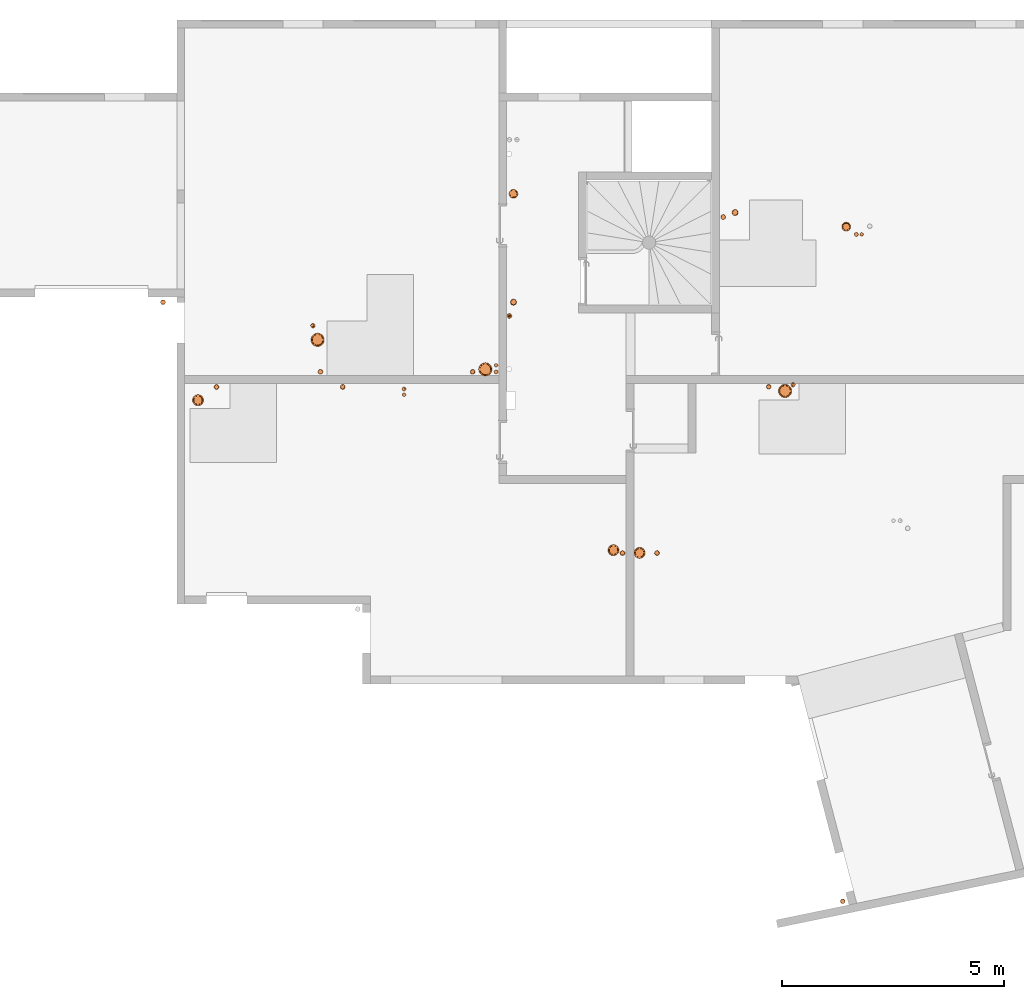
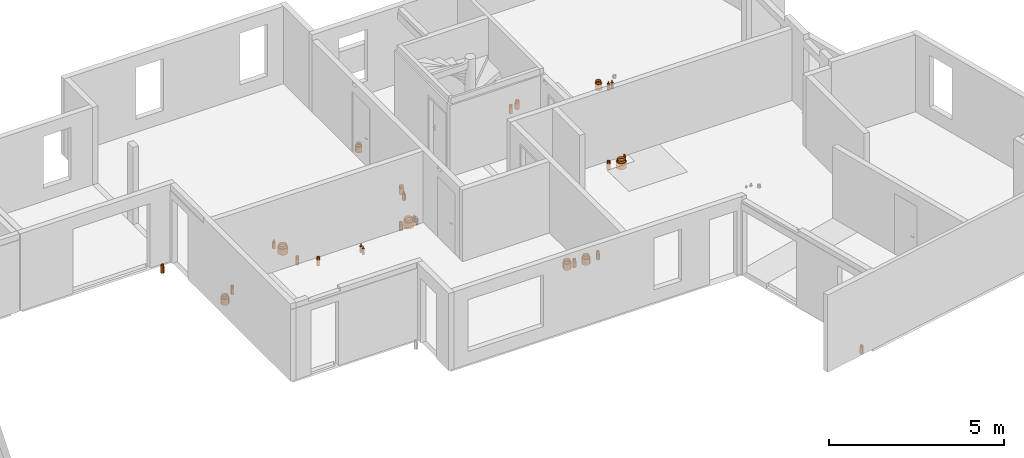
# One storey, part 28 of 30: 29 proxies.
"""IFC2X3 building model written with IfcOpenShell, lengths in centimetres."""

import ifcopenshell
import ifcopenshell.guid

model = None  # the IFC model being written
_history = None  # IfcOwnerHistory: only IFC2X3 demands one
_inside = {}  # id of a spatial element -> (the spatial element, [elements in it])
_under = {}  # id of a project, library or spatial element -> (it, [spatial elements below it])
_declared = {}  # id of a project -> (the project, [libraries it declares])
_typed = {}  # id of a type object -> (the type object, [elements of that type])
_made_of = {}  # id of a material, layer set ... -> (it, [elements and type objects made of it])


def new_model(schema):
    """Start an empty IFC model of exactly this schema.

    Asked for "IFC4X3", IfcOpenShell would pick the latest addendum, in which some entities
    have other attributes; the version numbers below select the first issue.
    IFC2X3 requires an IfcOwnerHistory on every rooted entity: one is made here for all.
    """
    global model, _history
    if schema == "IFC4X3":
        model = ifcopenshell.file(schema_version=(4, 3, 0, 0))
    else:
        model = ifcopenshell.file(schema=schema)
    _inside.clear()
    _under.clear()
    _declared.clear()
    _typed.clear()
    _made_of.clear()
    _history = None
    if model.schema == "IFC2X3":
        org = make("IfcOrganization", Name="unknown")
        user = make(
            "IfcPersonAndOrganization",
            ThePerson=make("IfcPerson", FamilyName="unknown"),
            TheOrganization=org,
        )
        app = make(
            "IfcApplication",
            ApplicationDeveloper=org,
            Version="unknown",
            ApplicationFullName="unknown",
            ApplicationIdentifier="unknown",
        )
        _history = make(
            "IfcOwnerHistory",
            OwningUser=user,
            OwningApplication=app,
            ChangeAction="ADDED",
            CreationDate=0,
        )
    return model


def make(cls, **values):
    """One entity of the class cls with the attributes given. An attribute that is None is left unset."""
    return model.create_entity(
        cls, **{name: value for name, value in values.items() if value is not None}
    )


def entity(cls, *values):
    """Any entity or typed value of the class cls, its attributes in the order of the schema. None: left unset."""
    e = model.create_entity(cls)
    for i, value in enumerate(values):
        if value is not None:
            e[i] = value
    return e


def rooted(cls, **values):
    """An entity with a GlobalId (a new one), such as an element, a storey or a relation."""
    return make(cls, GlobalId=ifcopenshell.guid.new(), OwnerHistory=_history, **values)


def si_unit(unit_type, name, prefix=None):
    """IfcSIUnit, for example si_unit("LENGTHUNIT", "METRE", prefix="MILLI")."""
    return make("IfcSIUnit", UnitType=unit_type, Prefix=prefix, Name=name)


def converted_unit(unit_type, name, factor, base, dimensions=None, offset=None):
    """IfcConversionBasedUnit, such as the inch: factor (a typed value) times the base unit."""
    return make(
        "IfcConversionBasedUnit"
        if offset is None
        else "IfcConversionBasedUnitWithOffset",
        ConversionOffset=offset,
        Dimensions=None
        if dimensions is None
        else entity("IfcDimensionalExponents", *dimensions),
        UnitType=unit_type,
        Name=name,
        ConversionFactor=make(
            "IfcMeasureWithUnit", ValueComponent=factor, UnitComponent=base
        ),
    )


def derived_unit(unit_type, elements):
    """IfcDerivedUnit: a product of units, each with its exponent."""
    return make(
        "IfcDerivedUnit",
        Elements=[
            make("IfcDerivedUnitElement", Unit=unit, Exponent=power)
            for unit, power in elements
        ],
        UnitType=unit_type,
    )


def assignment(units):
    """IfcUnitAssignment: the units of a project."""
    return None if units is None else make("IfcUnitAssignment", Units=units)


def point(xyz):
    """IfcCartesianPoint."""
    return None if xyz is None else make("IfcCartesianPoint", Coordinates=xyz)


def direction(xyz):
    """IfcDirection."""
    return None if xyz is None else make("IfcDirection", DirectionRatios=xyz)


def frame(location, z_axis=None, x_axis=None):
    """IfcAxis2Placement3D, a coordinate frame: its origin and axes. An axis left out is left unset."""
    return make(
        "IfcAxis2Placement3D",
        Location=point(location),
        Axis=direction(z_axis),
        RefDirection=direction(x_axis),
    )


def frame_2d(location, x_axis=None):
    """IfcAxis2Placement2D, a coordinate frame in the plane: its origin and x axis."""
    return make(
        "IfcAxis2Placement2D", Location=point(location), RefDirection=direction(x_axis)
    )


def origin():
    """The frame at (0, 0, 0) with its axes left unset."""
    return frame((0.0, 0.0, 0.0))


def place(relative_to, where):
    """IfcLocalPlacement: puts the frame where relative to a parent placement (None: the world)."""
    return make(
        "IfcLocalPlacement", PlacementRelTo=relative_to, RelativePlacement=where
    )


def context(
    kind, dimensions, precision=None, world=None, true_north=None, identifier=None
):
    """IfcGeometricRepresentationContext, for example the 3D "Model" context."""
    return make(
        "IfcGeometricRepresentationContext",
        ContextIdentifier=identifier,
        ContextType=kind,
        CoordinateSpaceDimension=dimensions,
        Precision=precision,
        WorldCoordinateSystem=world,
        TrueNorth=true_north,
    )


def subcontext(parent, identifier, kind, view, scale=None):
    """IfcGeometricRepresentationSubContext, for example "Body" below "Model"."""
    return make(
        "IfcGeometricRepresentationSubContext",
        ContextIdentifier=identifier,
        ContextType=kind,
        ParentContext=parent,
        TargetScale=scale,
        TargetView=view,
    )


def project(units=None, contexts=None):
    """IfcProject with its units and contexts."""
    return rooted(
        "IfcProject",
        Name="project",
        RepresentationContexts=contexts,
        UnitsInContext=assignment(units),
    )


def spatial(cls, under=None, at=None, **own):
    """A site, building, storey or space (cls), placed at a placement, below another one or the project."""
    s = rooted(cls, ObjectPlacement=at, **own)
    if under is not None:
        _under.setdefault(under.id(), (under, []))[1].append(s)
    return s


def profile(cls, at=None, kind="AREA", **sizes):
    """A parametric profile (cls). Its sizes go by their IFC names, for example OverallWidth=200.0."""
    return make(cls, ProfileType=kind, Position=at, **sizes)


def circle(**sizes):
    """IfcCircleProfileDef."""
    return profile("IfcCircleProfileDef", **sizes)


def hollow_circle(**sizes):
    """IfcCircleHollowProfileDef."""
    return profile("IfcCircleHollowProfileDef", **sizes)


def extrude(swept, where, along, depth):
    """IfcExtrudedAreaSolid: the profile swept, set in the frame where, extruded along a direction by depth."""
    return make(
        "IfcExtrudedAreaSolid",
        SweptArea=swept,
        Position=where,
        ExtrudedDirection=direction(along),
        Depth=depth,
    )


def shape(context_of_items, identifier, shape_type, items):
    """IfcShapeRepresentation: the items that make up one representation, for example the "Body"."""
    return make(
        "IfcShapeRepresentation",
        ContextOfItems=context_of_items,
        RepresentationIdentifier=identifier,
        RepresentationType=shape_type,
        Items=items,
    )


def source(mapping_origin, context_of_items, identifier, shape_type, items):
    """IfcRepresentationMap: a shape defined once, which mapped items show again and again."""
    return make(
        "IfcRepresentationMap",
        MappingOrigin=mapping_origin,
        MappedRepresentation=shape(context_of_items, identifier, shape_type, items),
    )


def transform(
    local_origin,
    x_axis=None,
    y_axis=None,
    z_axis=None,
    scale=None,
    scale2=None,
    scale3=None,
    uniform=True,
):
    """IfcCartesianTransformationOperator3D, or its non-uniform kind. x_axis, y_axis, z_axis: its Axis1, 2, 3."""
    if uniform:
        return make(
            "IfcCartesianTransformationOperator3D",
            Axis1=direction(x_axis),
            Axis2=direction(y_axis),
            LocalOrigin=point(local_origin),
            Scale=scale,
            Axis3=direction(z_axis),
        )
    return make(
        "IfcCartesianTransformationOperator3DnonUniform",
        Axis1=direction(x_axis),
        Axis2=direction(y_axis),
        LocalOrigin=point(local_origin),
        Scale=scale,
        Axis3=direction(z_axis),
        Scale2=scale2,
        Scale3=scale3,
    )


def mapped(mapping_source, mapping_target):
    """IfcMappedItem: shows the shape of a source again, moved by a transform."""
    return make(
        "IfcMappedItem", MappingSource=mapping_source, MappingTarget=mapping_target
    )


def material(Name=None, Category=None):
    """IfcMaterial."""
    return make("IfcMaterial", Name=Name, Category=Category)


def made_of(thing, what):
    """Note that an element or type object is made of a material, layer set ...; save() writes the relation."""
    if what is not None:
        _made_of.setdefault(what.id(), (what, []))[1].append(thing)
    return thing


def type_object(cls, material=None, **own):
    """A type object (cls), such as IfcWallType, which elements share."""
    return made_of(rooted(cls, **own), material)


def type_shapes(of_type, sources):
    """Give a type object the sources (RepresentationMaps) that its elements show as mapped items."""
    of_type.RepresentationMaps = sources


def element(
    cls,
    number,
    at=None,
    inside=None,
    cuts=None,
    type_object=None,
    material=None,
    context=None,
    identifier="Body",
    shape_type=None,
    held_by="IfcProductDefinitionShape",
    body=None,
    shapes=None,
    **own,
):
    """One element of the class cls, such as IfcWall. Its Tag is "e" and its number.

    at: its placement. inside: the storey or other place that contains it. cuts: it is an
    opening in that element (IfcRelVoidsElement). A single representation is given by context,
    identifier, shape_type and body (its items); several are given by shapes. held_by: the class
    of the entity that holds the representations. save() writes the other relations.
    """
    e = rooted(cls, Tag="e%d" % number, ObjectPlacement=at, **own)
    if body is not None:
        shapes = [shape(context, identifier, shape_type, body)]
    if shapes is not None:
        e.Representation = make(held_by, Representations=shapes)
    if inside is not None:
        _inside.setdefault(inside.id(), (inside, []))[1].append(e)
    if cuts is not None:
        rooted(
            "IfcRelVoidsElement", RelatingBuildingElement=cuts, RelatedOpeningElement=e
        )
    if type_object is not None:
        _typed.setdefault(type_object.id(), (type_object, []))[1].append(e)
    return made_of(e, material)


def aggregate(whole, parts):
    """IfcRelAggregates: a whole, such as a stair, and the parts it consists of."""
    return rooted("IfcRelAggregates", RelatingObject=whole, RelatedObjects=parts)


def save(model, path):
    """Write the relations noted so far, then the file.

    IfcRelAggregates (storeys below a building ...), IfcRelContainedInSpatialStructure (elements
    in a storey), IfcRelDefinesByType, IfcRelAssociatesMaterial and IfcRelDeclares: one each for
    every whole, place, type object, material and project.
    """
    for whole, parts in _under.values():
        aggregate(whole, parts)
    for where, things in _inside.values():
        rooted(
            "IfcRelContainedInSpatialStructure",
            RelatedElements=things,
            RelatingStructure=where,
        )
    for kind, things in _typed.values():
        rooted("IfcRelDefinesByType", RelatedObjects=things, RelatingType=kind)
    for what, things in _made_of.values():
        rooted("IfcRelAssociatesMaterial", RelatedObjects=things, RelatingMaterial=what)
    for by, libraries in _declared.values():
        rooted("IfcRelDeclares", RelatingContext=by, RelatedDefinitions=libraries)
    model.write(path)


model = new_model("IFC2X3")

# Units and contexts
model_context = context("Model", 3, precision=0.001, world=origin(), true_north=direction((6.12303176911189e-17, 1.0)))
body_context = subcontext(model_context, "Body", "Model", "MODEL_VIEW")
ifc_project = project(units=[si_unit("LENGTHUNIT", "METRE", prefix="CENTI"), si_unit("AREAUNIT", "SQUARE_METRE"), si_unit("VOLUMEUNIT", "CUBIC_METRE"), converted_unit("PLANEANGLEUNIT", "DEGREE", entity("IfcRatioMeasure", 0.0174532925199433), si_unit("PLANEANGLEUNIT", "RADIAN"), dimensions=[0, 0, 0, 0, 0, 0, 0]), si_unit("MASSUNIT", "GRAM", prefix="KILO"), derived_unit("MASSDENSITYUNIT", [(si_unit("MASSUNIT", "GRAM", prefix="KILO"), 1), (si_unit("LENGTHUNIT", "METRE"), -3)]), si_unit("TIMEUNIT", "SECOND"), si_unit("FREQUENCYUNIT", "HERTZ"), si_unit("THERMODYNAMICTEMPERATUREUNIT", "DEGREE_CELSIUS"), derived_unit("THERMALTRANSMITTANCEUNIT", [(si_unit("MASSUNIT", "GRAM", prefix="KILO"), 1), (si_unit("THERMODYNAMICTEMPERATUREUNIT", "KELVIN"), -1), (si_unit("TIMEUNIT", "SECOND"), -3)]), derived_unit("VOLUMETRICFLOWRATEUNIT", [(si_unit("LENGTHUNIT", "METRE"), 3), (si_unit("TIMEUNIT", "SECOND"), -1)]), si_unit("ELECTRICCURRENTUNIT", "AMPERE"), si_unit("ELECTRICVOLTAGEUNIT", "VOLT"), si_unit("POWERUNIT", "WATT"), si_unit("FORCEUNIT", "NEWTON"), si_unit("ILLUMINANCEUNIT", "LUX"), si_unit("LUMINOUSFLUXUNIT", "LUMEN"), si_unit("LUMINOUSINTENSITYUNIT", "CANDELA"), derived_unit("USERDEFINED", [(si_unit("MASSUNIT", "GRAM", prefix="KILO"), -1), (si_unit("LENGTHUNIT", "METRE"), -2), (si_unit("TIMEUNIT", "SECOND"), 3), (si_unit("LUMINOUSFLUXUNIT", "LUMEN"), 1)]), derived_unit("LINEARVELOCITYUNIT", [(si_unit("LENGTHUNIT", "METRE"), 1), (si_unit("TIMEUNIT", "SECOND"), -1)]), si_unit("PRESSUREUNIT", "PASCAL"), derived_unit("USERDEFINED", [(si_unit("LENGTHUNIT", "METRE"), -2), (si_unit("MASSUNIT", "GRAM", prefix="KILO"), 1), (si_unit("TIMEUNIT", "SECOND"), -2)])], contexts=[model_context])

# Site, building, storey
site_placement = place(None, origin())
site = spatial("IfcSite", under=ifc_project, at=site_placement, Name="Default", CompositionType="ELEMENT")
building_placement = place(site_placement, origin())
building = spatial("IfcBuilding", under=site, at=building_placement, Name="CAGE 03", CompositionType="ELEMENT")
storey_placement = place(building_placement, frame((0.0, 0.0, 610.0)))
storey = spatial("IfcBuildingStorey", under=building, at=storey_placement, Name="R+2", CompositionType="ELEMENT", Elevation=610.0)

# Proxies
ifc_material_1 = material(Name="Conduit VMC")
building_element_proxy_type_1 = type_object("IfcBuildingElementProxyType", Name="CFO235 P210", PredefinedType="NOTDEFINED", material=ifc_material_1)
shared_shape_1 = source(origin(), body_context, "Body", "SweptSolid", [
    extrude(circle(Radius=12.5, at=frame_2d((0.0, -2.01943071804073e-14), x_axis=(1.0, 0.0))), frame((0.0, 0.0, -21.0)), (0.0, 0.0, 1.0), 21.0),
    extrude(hollow_circle(Radius=10.0, WallThickness=0.5, at=frame_2d((0.0, -1.61554457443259e-14), x_axis=(1.0, 0.0))), frame((0.0, 0.0, -21.0)), (0.0, 0.0, 1.0), 28.5),
])
type_shapes(building_element_proxy_type_1, [shared_shape_1])
for number, where, name in (
    (1, (10327.9230662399, 4092.36946065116, -4.46999646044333e-07), "Galette - Résa - PVC1:CFO235 P210"),
    (2, (10268.9349519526, 4098.26793957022, -4.46999646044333e-07), "Galette - Résa - PVC1:CFO235 P210"),
    (3, (9332.31391271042, 4436.40500268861, -4.46999646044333e-07), "Galette - Résa - PVC1:CFO235 P210"),
):
    element("IfcBuildingElementProxy", number, at=place(storey_placement, frame(where)), inside=storey, type_object=building_element_proxy_type_1, material=ifc_material_1, Name=name, ObjectType="CFO235 P210", context=body_context, shape_type="MappedRepresentation", body=[
        mapped(shared_shape_1, transform((0.0, 0.0, 0.0), scale=1.0)),
    ])
building_element_proxy_type_2 = type_object("IfcBuildingElementProxyType", Name="CFO140 P135", PredefinedType="NOTDEFINED", material=ifc_material_1)
shared_shape_2 = source(origin(), body_context, "Body", "SweptSolid", [
    extrude(circle(Radius=7.0, at=frame_2d((0.0, -1.13088120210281e-14), x_axis=(1.0, 0.0))), frame((0.0, 0.0, -21.0)), (0.0, 0.0, 1.0), 21.0),
    extrude(hollow_circle(Radius=6.25, WallThickness=0.25, at=frame_2d((0.0, -1.00971535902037e-14), x_axis=(1.0, 0.0))), frame((0.0, 0.0, -21.0)), (0.0, 0.0, 1.0), 28.5),
])
type_shapes(building_element_proxy_type_2, [shared_shape_2])
proxy_1_placement = place(storey_placement, frame((10543.320982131, 4859.55826939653, -4.46999646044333e-07)))
element("IfcBuildingElementProxy", 4, at=proxy_1_placement, inside=storey, type_object=building_element_proxy_type_2, material=ifc_material_1, Name="Galette - Résa - PVC1:CFO140 P135", ObjectType="CFO140 P135", context=body_context, shape_type="MappedRepresentation", body=[
    mapped(shared_shape_2, transform((0.0, 0.0, 0.0), scale=1.0)),
])
ifc_material_2 = material(Name="Conduit EU")
building_element_proxy_type_3 = type_object("IfcBuildingElementProxyType", Name="CFO125 P110", PredefinedType="NOTDEFINED", material=ifc_material_2)
shared_shape_3 = source(origin(), body_context, "Body", "SweptSolid", [
    extrude(circle(Radius=5.5, at=frame_2d((0.0, -8.88549515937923e-15), x_axis=(1.0, 0.0))), frame((0.0, 0.0, -21.0)), (0.0, 0.0, 1.0), 21.0),
    extrude(hollow_circle(Radius=5.0, WallThickness=0.25, at=frame_2d((0.0, -8.07772287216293e-15), x_axis=(1.0, 0.0))), frame((0.0, 0.0, -21.0)), (0.0, 0.0, 1.0), 28.5),
])
type_shapes(building_element_proxy_type_3, [shared_shape_3])
for number, where, name in (
    (5, (10289.3612124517, 4091.78429255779, -4.46999646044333e-07), "Galette - Résa - PVC1:CFO125 P110"),
    (6, (10516.3663623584, 4849.41389855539, -4.46999646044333e-07), "Galette - Résa - PVC1:CFO125 P110"),
    (7, (10367.3017612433, 4091.78416513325, -4.46999646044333e-07), "Galette - Résa - PVC1:CFO125 P110"),
    (8, (9951.51198540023, 4500.43298935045, -4.46999646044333e-07), "Galette - Résa - PVC1:CFO125 P110"),
    (9, (9658.56743117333, 4466.46418000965, -4.46999646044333e-07), "Galette - Résa - PVC1:CFO125 P110"),
    (10, (9374.03856475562, 4466.282688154, -4.46999646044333e-07), "Galette - Résa - PVC1:CFO125 P110"),
    (11, (9608.38538763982, 4500.43707667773, -4.46999646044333e-07), "Galette - Résa - PVC1:CFO125 P110"),
    (12, (10619.0361233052, 4466.65917245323, -4.46999646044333e-07), "Galette - Résa - PVC1:CFO125 P110"),
):
    element("IfcBuildingElementProxy", number, at=place(storey_placement, frame(where)), inside=storey, type_object=building_element_proxy_type_3, material=ifc_material_2, Name=name, ObjectType="CFO125 P110", context=body_context, shape_type="MappedRepresentation", body=[
        mapped(shared_shape_3, transform((0.0, 0.0, 0.0), scale=1.0)),
    ])
ifc_material_3 = material(Name="Conduit EP")
building_element_proxy_type_4 = type_object("IfcBuildingElementProxyType", Name="EP 101", PredefinedType="NOTDEFINED", material=ifc_material_3)
shared_shape_4 = source(origin(), body_context, "Body", "SweptSolid", [
    extrude(circle(Radius=5.5, at=frame_2d((0.0, -8.88549515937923e-15), x_axis=(1.0, 0.0))), frame((0.0, 0.0, -21.0)), (0.0, 0.0, 1.0), 21.0),
    extrude(hollow_circle(Radius=5.0, WallThickness=0.25, at=frame_2d((0.0, -8.07772287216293e-15), x_axis=(1.0, 0.0))), frame((0.0, 0.0, -21.0)), (0.0, 0.0, 1.0), 28.5),
])
type_shapes(building_element_proxy_type_4, [shared_shape_4])
for number, where, name in (
    (13, (10785.9497545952, 3306.72517994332, -4.46999646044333e-07), "Galette - Résa - PVC1:EP 101"),
    (14, (9253.3714875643, 4657.37221051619, -4.46999646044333e-07), "Galette - Résa - PVC1:EP 101"),
):
    element("IfcBuildingElementProxy", number, at=place(storey_placement, frame(where)), inside=storey, type_object=building_element_proxy_type_4, material=ifc_material_3, Name=name, ObjectType="EP 101", context=body_context, shape_type="MappedRepresentation", body=[
        mapped(shared_shape_4, transform((0.0, 0.0, 0.0), scale=1.0)),
    ])
building_element_proxy_type_5 = type_object("IfcBuildingElementProxyType", Name="EP 161", PredefinedType="NOTDEFINED", material=ifc_material_3)
shared_shape_5 = source(origin(), body_context, "Body", "SweptSolid", [
    extrude(circle(Radius=10.0, at=frame_2d((0.0, -1.61554457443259e-14), x_axis=(1.0, 0.0))), frame((0.0, 0.0, -21.0)), (0.0, 0.0, 1.0), 21.0),
    extrude(hollow_circle(Radius=8.0, WallThickness=0.250000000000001, at=frame_2d((0.0, -1.29243565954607e-14), x_axis=(1.0, 0.0))), frame((0.0, 0.0, -21.0)), (0.0, 0.0, 1.0), 28.5),
])
type_shapes(building_element_proxy_type_5, [shared_shape_5])
proxy_2_placement = place(storey_placement, frame((10043.4873261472, 4901.76973145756, -4.46999646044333e-07)))
element("IfcBuildingElementProxy", 15, at=proxy_2_placement, inside=storey, type_object=building_element_proxy_type_5, material=ifc_material_3, Name="Galette - Résa - PVC1:EP 161", ObjectType="EP 161", context=body_context, shape_type="MappedRepresentation", body=[
    mapped(shared_shape_5, transform((0.0, 0.0, 0.0), scale=1.0)),
])
building_element_proxy_type_6 = type_object("IfcBuildingElementProxyType", Name="EP 126", PredefinedType="NOTDEFINED", material=ifc_material_3)
shared_shape_6 = source(origin(), body_context, "Body", "SweptSolid", [
    extrude(circle(Radius=7.0, at=frame_2d((0.0, -1.13088120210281e-14), x_axis=(1.0, 0.0))), frame((0.0, 0.0, -21.0)), (0.0, 0.0, 1.0), 21.0),
    extrude(hollow_circle(Radius=6.25, WallThickness=0.25, at=frame_2d((0.0, -1.00971535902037e-14), x_axis=(1.0, 0.0))), frame((0.0, 0.0, -21.0)), (0.0, 0.0, 1.0), 28.5),
])
type_shapes(building_element_proxy_type_6, [shared_shape_6])
proxy_3_placement = place(storey_placement, frame((10043.5548418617, 4657.41074661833, -4.46999646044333e-07)))
element("IfcBuildingElementProxy", 16, at=proxy_3_placement, inside=storey, type_object=building_element_proxy_type_6, material=ifc_material_3, Name="Galette - Résa - PVC1:EP 126", ObjectType="EP 126", context=body_context, shape_type="MappedRepresentation", body=[
    mapped(shared_shape_6, transform((0.0, 0.0, 0.0), scale=1.0)),
])
building_element_proxy_type_7 = type_object("IfcBuildingElementProxyType", Name="CFO285 P260", PredefinedType="NOTDEFINED", material=ifc_material_1)
shared_shape_7 = source(origin(), body_context, "Body", "SweptSolid", [
    extrude(circle(Radius=15.0, at=frame_2d((0.0, -2.42331686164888e-14), x_axis=(1.0, 0.0))), frame((0.0, 0.0, -21.0)), (0.0, 0.0, 1.0), 21.0),
    extrude(hollow_circle(Radius=12.5, WallThickness=0.499999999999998, at=frame_2d((0.0, -2.01943071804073e-14), x_axis=(1.0, 0.0))), frame((0.0, 0.0, -21.0)), (0.0, 0.0, 1.0), 28.5),
])
type_shapes(building_element_proxy_type_7, [shared_shape_7])
for number, where, name in (
    (17, (10655.7872695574, 4457.25127372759, -4.46999646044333e-07), "Galette - Résa - PVC1:CFO285 P260"),
    (18, (9980.14441648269, 4505.98818311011, -4.46999646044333e-07), "Galette - Résa - PVC1:CFO285 P260"),
    (19, (9601.89552831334, 4572.52898094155, -4.46999646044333e-07), "Galette - Résa - PVC1:CFO285 P260"),
):
    element("IfcBuildingElementProxy", number, at=place(storey_placement, frame(where)), inside=storey, type_object=building_element_proxy_type_7, material=ifc_material_1, Name=name, ObjectType="CFO285 P260", context=body_context, shape_type="MappedRepresentation", body=[
        mapped(shared_shape_7, transform((0.0, 0.0, 0.0), scale=1.0)),
    ])
ifc_material_4 = material(Name="Circuit ECS Aller")
building_element_proxy_type_8 = type_object("IfcBuildingElementProxyType", Name="CFO100 P90", PredefinedType="NOTDEFINED", material=ifc_material_4)
shared_shape_8 = source(origin(), body_context, "Body", "SweptSolid", [
    extrude(circle(Radius=4.5, at=frame_2d((0.0, -7.26995058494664e-15), x_axis=(1.0, 0.0))), frame((0.0, 0.0, -21.0)), (0.0, 0.0, 1.0), 21.0),
    extrude(hollow_circle(Radius=1.6, WallThickness=0.05, at=frame_2d((0.0, -2.58487131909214e-15), x_axis=(1.0, 0.0))), frame((0.0, 0.0, -21.0)), (0.0, 0.0, 1.0), 28.5),
])
type_shapes(building_element_proxy_type_8, [shared_shape_8])
for number, where, name in (
    (20, (10816.453995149, 4810.1471277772, -4.46999646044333e-07), "Galette - Résa - PVC1:CFO100 P90"),
    (21, (10004.3066082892, 4500.43298935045, -4.46999646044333e-07), "Galette - Résa - PVC1:CFO100 P90"),
    (22, (9796.97191642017, 4461.65360229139, -4.46999646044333e-07), "Galette - Résa - PVC1:CFO100 P90"),
):
    element("IfcBuildingElementProxy", number, at=place(storey_placement, frame(where)), inside=storey, type_object=building_element_proxy_type_8, material=ifc_material_4, Name=name, ObjectType="CFO100 P90", context=body_context, shape_type="MappedRepresentation", body=[
        mapped(shared_shape_8, transform((0.0, 0.0, 0.0), scale=1.0)),
    ])
ifc_material_5 = material(Name="Circuit ECS Retour")
building_element_proxy_type_9 = type_object("IfcBuildingElementProxyType", Name="CFO100 P80", PredefinedType="NOTDEFINED", material=ifc_material_5)
shared_shape_9 = source(origin(), body_context, "Body", "SweptSolid", [
    extrude(circle(Radius=4.0, at=frame_2d((0.0, -6.46217829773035e-15), x_axis=(1.0, 0.0))), frame((0.0, 0.0, -21.0)), (0.0, 0.0, 1.0), 21.0),
    extrude(hollow_circle(Radius=1.0, WallThickness=0.0500000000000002, at=frame_2d((0.0, -1.61554457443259e-15), x_axis=(1.0, 0.0))), frame((0.0, 0.0, -21.0)), (0.0, 0.0, 1.0), 28.5),
])
type_shapes(building_element_proxy_type_9, [shared_shape_9])
for number, where, name in (
    (23, (10828.5411147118, 4810.1471277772, -4.46999646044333e-07), "Galette - Résa - PVC1:CFO100 P80"),
    (24, (10004.3066082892, 4514.90367083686, -4.46999646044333e-07), "Galette - Résa - PVC1:CFO100 P80"),
    (25, (9796.97191642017, 4448.90360229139, -4.46999646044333e-07), "Galette - Résa - PVC1:CFO100 P80"),
):
    element("IfcBuildingElementProxy", number, at=place(storey_placement, frame(where)), inside=storey, type_object=building_element_proxy_type_9, material=ifc_material_5, Name=name, ObjectType="CFO100 P80", context=body_context, shape_type="MappedRepresentation", body=[
        mapped(shared_shape_9, transform((0.0, 0.0, 0.0), scale=1.0)),
    ])
ifc_material_6 = material(Name="Circuit EF")
building_element_proxy_type_10 = type_object("IfcBuildingElementProxyType", Name="EF 50", PredefinedType="NOTDEFINED", material=ifc_material_6)
shared_shape_10 = source(origin(), body_context, "Body", "SweptSolid", [
    extrude(circle(Radius=5.5, at=frame_2d((0.0, -8.88549515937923e-15), x_axis=(1.0, 0.0))), frame((0.0, 0.0, -21.0)), (0.0, 0.0, 1.0), 21.0),
    extrude(hollow_circle(Radius=2.5, WallThickness=0.9, at=frame_2d((0.0, -4.03886143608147e-15), x_axis=(1.0, 0.0))), frame((0.0, 0.0, -21.0)), (0.0, 0.0, 1.0), 28.5),
])
type_shapes(building_element_proxy_type_10, [shared_shape_10])
proxy_4_placement = place(storey_placement, frame((10034.3657978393, 4626.41657255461, -4.46999646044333e-07)))
element("IfcBuildingElementProxy", 26, at=proxy_4_placement, inside=storey, type_object=building_element_proxy_type_10, material=ifc_material_6, Name="Galette - Résa - PVC1:EF 50", ObjectType="EF 50", context=body_context, shape_type="MappedRepresentation", body=[
    mapped(shared_shape_10, transform((0.0, 0.0, 0.0), scale=1.0)),
])
building_element_proxy_type_11 = type_object("IfcBuildingElementProxyType", Name="CFO200 P170", PredefinedType="NOTDEFINED", material=ifc_material_1)
shared_shape_11 = source(origin(), body_context, "Body", "SweptSolid", [
    extrude(circle(Radius=10.0, at=frame_2d((0.0, -1.61554457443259e-14), x_axis=(1.0, 0.0))), frame((0.0, 0.0, -21.0)), (0.0, 0.0, 1.0), 21.0),
    extrude(hollow_circle(Radius=8.0, WallThickness=0.500000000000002, at=frame_2d((0.0, -1.29243565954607e-14), x_axis=(1.0, 0.0))), frame((0.0, 0.0, -21.0)), (0.0, 0.0, 1.0), 28.5),
])
type_shapes(building_element_proxy_type_11, [shared_shape_11])
proxy_5_placement = place(storey_placement, frame((10793.7613503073, 4827.78057380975, -4.46999646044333e-07)))
element("IfcBuildingElementProxy", 27, at=proxy_5_placement, inside=storey, type_object=building_element_proxy_type_11, material=ifc_material_1, Name="Galette - Résa - PVC1:CFO200 P170", ObjectType="CFO200 P170", context=body_context, shape_type="MappedRepresentation", body=[
    mapped(shared_shape_11, transform((0.0, 0.0, 0.0), scale=1.0)),
])
building_element_proxy_type_12 = type_object("IfcBuildingElementProxyType", Name="EU 51", PredefinedType="NOTDEFINED", material=ifc_material_2)
shared_shape_12 = source(origin(), body_context, "Body", "SweptSolid", [
    extrude(circle(Radius=5.0, at=frame_2d((0.0, -8.07772287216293e-15), x_axis=(1.0, 0.0))), frame((0.0, 0.0, -21.0)), (0.0, 0.0, 1.0), 21.0),
    extrude(hollow_circle(Radius=2.5, WallThickness=0.25, at=frame_2d((0.0, -4.03886143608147e-15), x_axis=(1.0, 0.0))), frame((0.0, 0.0, -21.0)), (0.0, 0.0, 1.0), 28.5),
])
type_shapes(building_element_proxy_type_12, [shared_shape_12])
for number, where, name in (
    (28, (10673.8606119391, 4471.21631940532, -4.46999646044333e-07), "Galette - Résa - PVC1:EU 51"),
    (29, (9591.33610488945, 4604.40431516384, -4.46999646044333e-07), "Galette - Résa - PVC1:EU 51"),
):
    element("IfcBuildingElementProxy", number, at=place(storey_placement, frame(where)), inside=storey, type_object=building_element_proxy_type_12, material=ifc_material_2, Name=name, ObjectType="EU 51", context=body_context, shape_type="MappedRepresentation", body=[
        mapped(shared_shape_12, transform((0.0, 0.0, 0.0), scale=1.0)),
    ])

save(model, "model.ifc")
